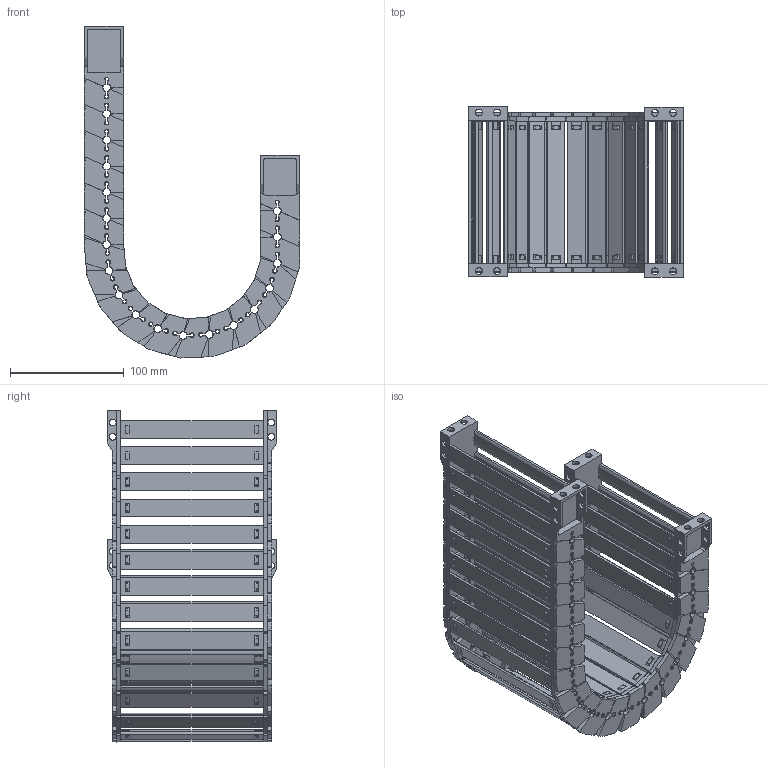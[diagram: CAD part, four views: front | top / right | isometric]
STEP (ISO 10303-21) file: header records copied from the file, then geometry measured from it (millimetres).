
FILE_DESCRIPTION(/* description */ (''),/* implementation_level */ '2;1');
FILE_NAME(/* name */ 'JY28-125-R75.stp',/* time_stamp */ '2026-06-03T18:33:41+08:00',/* author */ (''),/* organization */ (''),/* preprocessor_version */ 'ST-DEVELOPER v19.4',/* originating_system */ 'SIEMENS PLM Software NX2306.5001',/* authorisation */ '');
FILE_SCHEMA (('AP203_CONFIGURATION_CONTROLLED_3D_DESIGN_OF_MECHANICAL_PARTS_AND_ASSEMBLIES_MIM_LF { 1 0 10303 403 2 1 2}'));
Products named in the file (1): 简化图纸_objects
Bounding box: 189.55 x 149.5 x 292.17 mm (x, y, z)
Volume: 495561.5 mm3; surface area: 357240.1 mm2
Topology: 74 solids, 74 shells, 6194 faces, 17618 edges, 11518 vertices
Faces by surface type: plane 4058, cone 1120, cylinder 978, bspline 36, torus 2
Full cylindrical faces by diameter (mm): 6 x24
Entity records: 209461 total; most frequent: CARTESIAN_POINT 46487, ORIENTED_EDGE 35144, DIRECTION 33002, EDGE_CURVE 17572, LINE 11632, VECTOR 11632, VERTEX_POINT 11496, AXIS2_PLACEMENT_3D 10685
